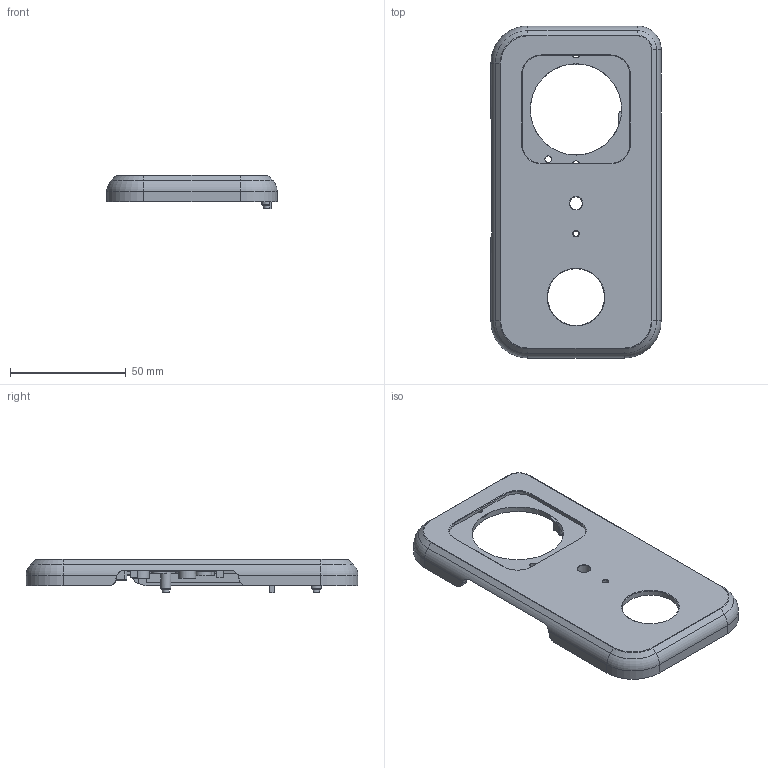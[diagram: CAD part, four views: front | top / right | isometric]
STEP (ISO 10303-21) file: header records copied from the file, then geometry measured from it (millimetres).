
FILE_DESCRIPTION(('Open CASCADE Model'),'2;1');
FILE_NAME('Open CASCADE Shape Model','2026-09-21T11:06:40',('Author'),( 'Open CASCADE'),'Open CASCADE STEP processor 7.7','Open CASCADE 7.7' ,'Unknown');
FILE_SCHEMA(('AUTOMOTIVE_DESIGN { 1 0 10303 214 1 1 1 1 }'));
Length unit declared in the file: millimetre
Products named in the file (1): Open CASCADE STEP translator 7.7 2
Bounding box: 73.5 x 143.25 x 14.27 mm (x, y, z)
Volume: 29815.1 mm3; surface area: 28521 mm2
Topology: 1 solids, 1 shells, 876 faces, 2530 edges, 1635 vertices
Faces by surface type: plane 478, cylinder 244, cone 62, sphere 55, torus 31, bspline 5, revolution 1
Full cylindrical faces by diameter (mm): 2.3 x4, 2.4 x7, 2.6 x6, 2.9 x22, 5.5 x1, 5.6 x1, 6.4 x5, 6.5 x1, 7.2 x4, 8 x2, 9.4 x1, 24.5 x1, 34.6 x1, 39.4 x1
Entity records: 72252 total; most frequent: CARTESIAN_POINT 25672, DIRECTION 7945, ORIENTED_EDGE 5000, PCURVE 5000, DEFINITIONAL_REPRESENTATION 5000, LINE 4119, VECTOR 4119, EDGE_CURVE 2500
